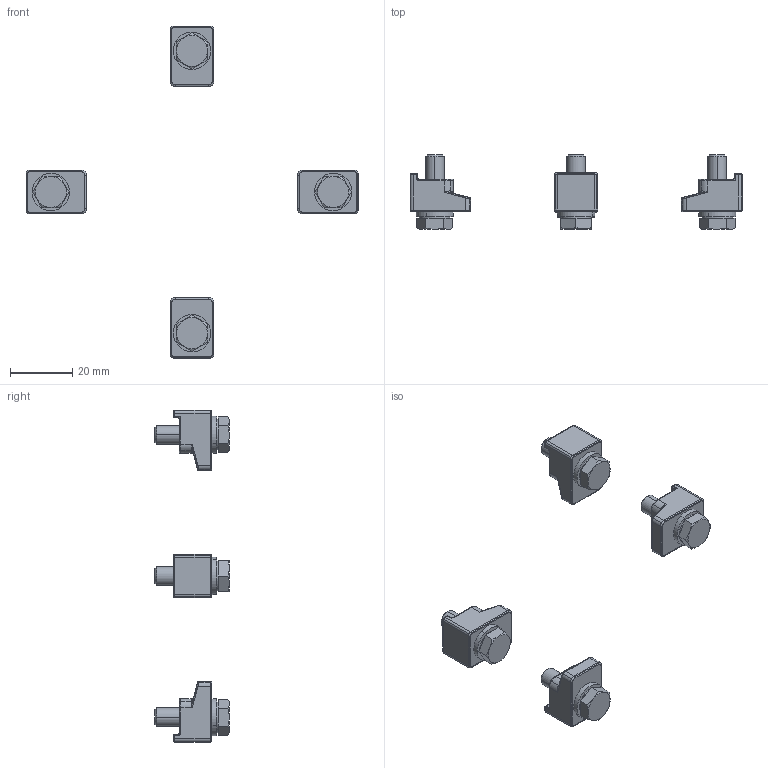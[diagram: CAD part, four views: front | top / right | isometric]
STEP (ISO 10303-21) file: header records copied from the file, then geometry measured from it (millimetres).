
FILE_DESCRIPTION((''),'2;1');
FILE_NAME('W:\211-015_50KF.stp','2003-10-30T13:52:40',('KAA'),(''),'Autodesk Inventor (R) 6.0','Autodesk Inventor (R) 6.0','');
FILE_SCHEMA(('CONFIG_CONTROL_DESIGN'));
Length unit declared in the file: millimetre
Products named in the file (1): 211-015_50KF
Bounding box: 107 x 24 x 107 mm (x, y, z)
Volume: 12515.2 mm3; surface area: 8026.8 mm2
Topology: 4 solids, 4 shells, 416 faces, 1028 edges, 620 vertices
Faces by surface type: cylinder 224, plane 84, bspline 60, torus 24, cone 16, sphere 8
Entity records: 15709 total; most frequent: CARTESIAN_POINT 5785, DIRECTION 2218, ORIENTED_EDGE 2016, EDGE_CURVE 1008, AXIS2_PLACEMENT_3D 913, VERTEX_POINT 620, CIRCLE 492, EDGE_LOOP 436
